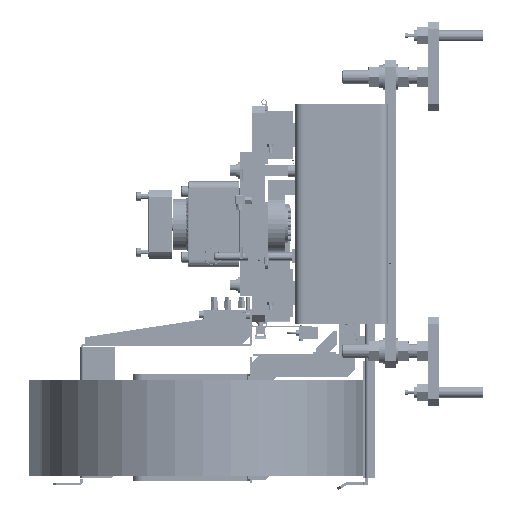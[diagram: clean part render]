
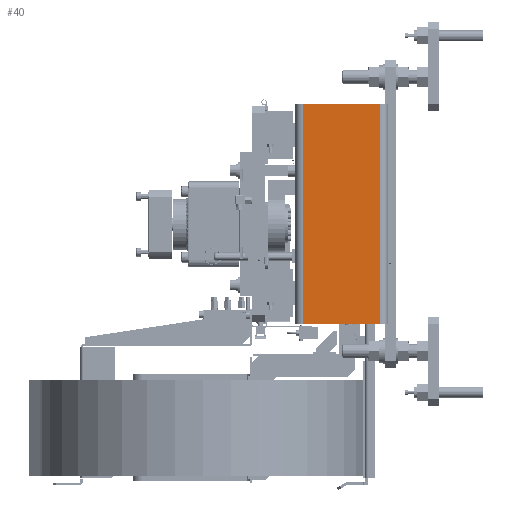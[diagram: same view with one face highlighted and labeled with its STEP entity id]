
A CAD part, left-side view. The second image highlights one B-rep face of the part: STEP entity #40.
In plain terms, the highlighted planar face has unit normal (-1, 0, 0).
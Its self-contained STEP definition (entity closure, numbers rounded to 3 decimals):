
#40 = ADVANCED_FACE ( 'NONE', ( #113496 ), #164602, .F. ) ;
#10945 = DIRECTION ( 'NONE',  ( 1., 0., 0. ) ) ;
#11396 = LINE ( 'NONE', #148461, #164900 ) ;
#12493 = LINE ( 'NONE', #80426, #29612 ) ;
#13127 = DIRECTION ( 'NONE',  ( 0., 1., 0. ) ) ;
#16033 = LINE ( 'NONE', #84043, #95257 ) ;
#17095 = DIRECTION ( 'NONE',  ( 0., 0., -1. ) ) ;
#18045 = AXIS2_PLACEMENT_3D ( 'NONE', #216882, #10945, #13127 ) ;
#26663 = VERTEX_POINT ( 'NONE', #66492 ) ;
#29612 = VECTOR ( 'NONE', #95046, 1000. ) ;
#39644 = CARTESIAN_POINT ( 'NONE',  ( -2997., 106., -160. ) ) ;
#47084 = DIRECTION ( 'NONE',  ( 0., 0., -1. ) ) ;
#48843 = EDGE_CURVE ( 'NONE', #125028, #26663, #12493, .T. ) ;
#66492 = CARTESIAN_POINT ( 'NONE',  ( -2997., -7.4, -160. ) ) ;
#68302 = DIRECTION ( 'NONE',  ( 0., -1., 0. ) ) ;
#80426 = CARTESIAN_POINT ( 'NONE',  ( -2997., -7.4, -160. ) ) ;
#81819 = CARTESIAN_POINT ( 'NONE',  ( -2997., -7.4, 160. ) ) ;
#84043 = CARTESIAN_POINT ( 'NONE',  ( -2997., -7.4, 160. ) ) ;
#87306 = LINE ( 'NONE', #118563, #179093 ) ;
#89531 = ORIENTED_EDGE ( 'NONE', *, *, #48843, .T. ) ;
#95046 = DIRECTION ( 'NONE',  ( 0., -1., 0. ) ) ;
#95257 = VECTOR ( 'NONE', #17095, 1000. ) ;
#102512 = VERTEX_POINT ( 'NONE', #81819 ) ;
#113496 = FACE_OUTER_BOUND ( 'NONE', #203686, .T. ) ;
#118563 = CARTESIAN_POINT ( 'NONE',  ( -2997., -7.4, 160. ) ) ;
#125028 = VERTEX_POINT ( 'NONE', #39644 ) ;
#131996 = ORIENTED_EDGE ( 'NONE', *, *, #170705, .F. ) ;
#144669 = EDGE_CURVE ( 'NONE', #216191, #125028, #11396, .T. ) ;
#148461 = CARTESIAN_POINT ( 'NONE',  ( -2997., 106., 160. ) ) ;
#148873 = ORIENTED_EDGE ( 'NONE', *, *, #194541, .F. ) ;
#155689 = ORIENTED_EDGE ( 'NONE', *, *, #144669, .T. ) ;
#164602 = PLANE ( 'NONE',  #18045 ) ;
#164900 = VECTOR ( 'NONE', #47084, 1000. ) ;
#170705 = EDGE_CURVE ( 'NONE', #216191, #102512, #87306, .T. ) ;
#178408 = CARTESIAN_POINT ( 'NONE',  ( -2997., 106., 160. ) ) ;
#179093 = VECTOR ( 'NONE', #68302, 1000. ) ;
#194541 = EDGE_CURVE ( 'NONE', #102512, #26663, #16033, .T. ) ;
#203686 = EDGE_LOOP ( 'NONE', ( #89531, #148873, #131996, #155689 ) ) ;
#216191 = VERTEX_POINT ( 'NONE', #178408 ) ;
#216882 = CARTESIAN_POINT ( 'NONE',  ( -2997., -7.4, 160. ) ) ;
